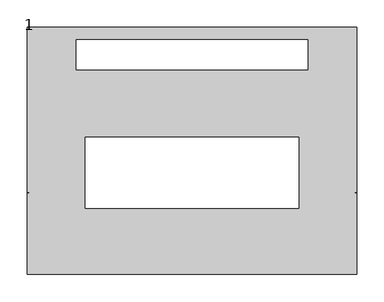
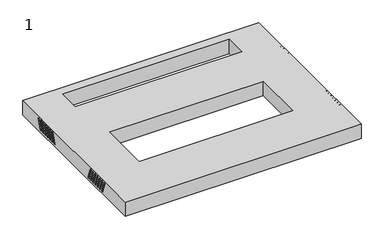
"""IFC4 building model written with IfcOpenShell, lengths in millimetres: proxy geometry, 1."""

from ifc_helpers import new_model, si_unit, frame, origin, place, context, project, spatial, polyline, circle_curve, source, transform, mapped, element, save
from ifc_brep_helpers import plane_surface, revolved_surface, advanced_brep


def proxy_1_63ddd125(model_context):
    return source(origin(), model_context, "Body", "AdvancedBrep", [
        advanced_brep(
        [(298.0, -135.8, 931.7479679), (298.0, -126.9074763, 907.3159597), (298.0, -123.1487058, 908.6840403), (298.0, -132.0412295, 933.1160484), (298.0, -125.8, 931.7479679), (298.0, -116.9074763, 907.3159597), (298.0, -113.1487058, 908.6840403), (298.0, -122.0412295, 933.1160484), (298.0, -115.8, 931.7479679), (298.0, -106.9074763, 907.3159597), (298.0, -103.1487058, 908.6840403), (298.0, -112.0412295, 933.1160484), (298.0, -105.8, 931.7479679), (298.0, -96.9074763, 907.3159597), (298.0, -93.1487058, 908.6840403), (298.0, -102.0412295, 933.1160484), (298.0, -95.8, 931.7479679), (298.0, -86.9074763, 907.3159597), (298.0, -83.1487058, 908.6840403), (298.0, -92.0412295, 933.1160484), (298.0, -85.8, 931.7479679), (298.0, -76.9074763, 907.3159597), (298.0, -73.1487058, 908.6840403), (298.0, -82.0412295, 933.1160484), (298.0, -75.8, 931.7479679), (298.0, -66.9074763, 907.3159597), (298.0, -63.1487058, 908.6840403), (298.0, -72.0412295, 933.1160484), (300.0, -132.0412295, 933.1160484), (300.0, -135.8, 931.7479679), (300.0, -123.1487058, 908.6840403), (300.0, -126.9074763, 907.3159597), (300.0, -122.0412295, 933.1160484), (300.0, -125.8, 931.7479679), (300.0, -113.1487058, 908.6840403), (300.0, -116.9074763, 907.3159597), (300.0, -112.0412295, 933.1160484), (300.0, -115.8, 931.7479679), (300.0, -103.1487058, 908.6840403), (300.0, -106.9074763, 907.3159597), (300.0, -102.0412295, 933.1160484), (300.0, -105.8, 931.7479679), (300.0, -93.1487058, 908.6840403), (300.0, -96.9074763, 907.3159597), (300.0, -92.0412295, 933.1160484), (300.0, -95.8, 931.7479679), (300.0, -83.1487058, 908.6840403), (300.0, -86.9074763, 907.3159597), (300.0, -82.0412295, 933.1160484), (300.0, -85.8, 931.7479679), (300.0, -73.1487058, 908.6840403), (300.0, -76.9074763, 907.3159597), (300.0, -72.0412295, 933.1160484), (300.0, -75.8, 931.7479679), (300.0, -63.1487058, 908.6840403), (300.0, -66.9074763, 907.3159597), (300.0, 225.0, 900.0), (300.0, -225.0, 900.0), (-300.0, -225.0, 900.0), (-300.0, 225.0, 900.0), (-211.0, 147.5, 900.0), (211.0, 147.5, 900.0), (211.0, 202.5, 900.0), (-211.0, 202.5, 900.0), (195.0, 25.0, 900.0), (-195.0, 25.0, 900.0), (-195.0, -105.0, 900.0), (195.0, -105.0, 900.0), (300.0, 225.0, 938.0), (-300.0, 225.0, 938.0), (-300.0, -225.0, 938.0), (300.0, -225.0, 938.0), (-211.0, 147.5, 938.0), (-211.0, 202.5, 938.0), (211.0, 202.5, 938.0), (211.0, 147.5, 938.0), (195.0, 25.0, 938.0), (195.0, -105.0, 938.0), (-195.0, -105.0, 938.0), (-195.0, 25.0, 938.0), (-300.0, -66.9074763, 907.3159597), (-300.0, -63.1487058, 908.6840403), (-300.0, -72.0412295, 933.1160484), (-300.0, -75.8, 931.7479679), (-300.0, -76.9074763, 907.3159597), (-300.0, -73.1487058, 908.6840403), (-300.0, -82.0412295, 933.1160484), (-300.0, -85.8, 931.7479679), (-300.0, -86.9074763, 907.3159597), (-300.0, -83.1487058, 908.6840403), (-300.0, -92.0412295, 933.1160484), (-300.0, -95.8, 931.7479679), (-300.0, -96.9074763, 907.3159597), (-300.0, -93.1487058, 908.6840403), (-300.0, -102.0412295, 933.1160484), (-300.0, -105.8, 931.7479679), (-300.0, -106.9074763, 907.3159597), (-300.0, -103.1487058, 908.6840403), (-300.0, -112.0412295, 933.1160484), (-300.0, -115.8, 931.7479679), (-300.0, -116.9074763, 907.3159597), (-300.0, -113.1487058, 908.6840403), (-300.0, -122.0412295, 933.1160484), (-300.0, -125.8, 931.7479679), (-300.0, -126.9074763, 907.3159597), (-300.0, -123.1487058, 908.6840403), (-300.0, -132.0412295, 933.1160484), (-300.0, -135.8, 931.7479679), (-300.0, 96.0, 931.7479679), (-300.0, 92.2412295, 933.1160484), (-300.0, 83.3487058, 908.6840403), (-300.0, 87.1074763, 907.3159597), (-300.0, 106.0, 931.7479679), (-300.0, 102.2412295, 933.1160484), (-300.0, 93.3487058, 908.6840403), (-300.0, 97.1074763, 907.3159597), (-300.0, 116.0, 931.7479679), (-300.0, 112.2412295, 933.1160484), (-300.0, 103.3487058, 908.6840403), (-300.0, 107.1074763, 907.3159597), (-300.0, 126.0, 931.7479679), (-300.0, 122.2412295, 933.1160484), (-300.0, 113.3487058, 908.6840403), (-300.0, 117.1074763, 907.3159597), (-300.0, 136.0, 931.7479679), (-300.0, 132.2412295, 933.1160484), (-300.0, 123.3487058, 908.6840403), (-300.0, 127.1074763, 907.3159597), (-300.0, 146.0, 931.7479679), (-300.0, 142.2412295, 933.1160484), (-300.0, 133.3487058, 908.6840403), (-300.0, 137.1074763, 907.3159597), (-300.0, 156.0, 931.7479679), (-300.0, 152.2412295, 933.1160484), (-300.0, 143.3487058, 908.6840403), (-300.0, 147.1074763, 907.3159597), (300.0, 152.2412295, 933.1160484), (300.0, 156.0, 931.7479679), (300.0, 147.1074763, 907.3159597), (300.0, 143.3487058, 908.6840403), (300.0, 142.2412295, 933.1160484), (300.0, 146.0, 931.7479679), (300.0, 137.1074763, 907.3159597), (300.0, 133.3487058, 908.6840403), (300.0, 132.2412295, 933.1160484), (300.0, 136.0, 931.7479679), (300.0, 127.1074763, 907.3159597), (300.0, 123.3487058, 908.6840403), (300.0, 122.2412295, 933.1160484), (300.0, 126.0, 931.7479679), (300.0, 117.1074763, 907.3159597), (300.0, 113.3487058, 908.6840403), (300.0, 112.2412295, 933.1160484), (300.0, 116.0, 931.7479679), (300.0, 107.1074763, 907.3159597), (300.0, 103.3487058, 908.6840403), (300.0, 102.2412295, 933.1160484), (300.0, 106.0, 931.7479679), (300.0, 97.1074763, 907.3159597), (300.0, 93.3487058, 908.6840403), (300.0, 92.2412295, 933.1160484), (300.0, 96.0, 931.7479679), (300.0, 87.1074763, 907.3159597), (300.0, 83.3487058, 908.6840403), (298.0, 156.0, 931.7479679), (298.0, 152.2412295, 933.1160484), (298.0, 143.3487058, 908.6840403), (298.0, 147.1074763, 907.3159597), (298.0, 146.0, 931.7479679), (298.0, 142.2412295, 933.1160484), (298.0, 133.3487058, 908.6840403), (298.0, 137.1074763, 907.3159597), (298.0, 136.0, 931.7479679), (298.0, 132.2412295, 933.1160484), (298.0, 123.3487058, 908.6840403), (298.0, 127.1074763, 907.3159597), (298.0, 126.0, 931.7479679), (298.0, 122.2412295, 933.1160484), (298.0, 113.3487058, 908.6840403), (298.0, 117.1074763, 907.3159597), (298.0, 116.0, 931.7479679), (298.0, 112.2412295, 933.1160484), (298.0, 103.3487058, 908.6840403), (298.0, 107.1074763, 907.3159597), (298.0, 106.0, 931.7479679), (298.0, 102.2412295, 933.1160484), (298.0, 93.3487058, 908.6840403), (298.0, 97.1074763, 907.3159597), (298.0, 96.0, 931.7479679), (298.0, 92.2412295, 933.1160484), (298.0, 83.3487058, 908.6840403), (298.0, 87.1074763, 907.3159597), (-298.0, -63.1487058, 908.6840403), (-298.0, -66.9074763, 907.3159597), (-298.0, -75.8, 931.7479679), (-298.0, -72.0412295, 933.1160484), (-298.0, -73.1487058, 908.6840403), (-298.0, -76.9074763, 907.3159597), (-298.0, -85.8, 931.7479679), (-298.0, -82.0412295, 933.1160484), (-298.0, -83.1487058, 908.6840403), (-298.0, -86.9074763, 907.3159597), (-298.0, -95.8, 931.7479679), (-298.0, -92.0412295, 933.1160484), (-298.0, -93.1487058, 908.6840403), (-298.0, -96.9074763, 907.3159597), (-298.0, -105.8, 931.7479679), (-298.0, -102.0412295, 933.1160484), (-298.0, -103.1487058, 908.6840403), (-298.0, -106.9074763, 907.3159597), (-298.0, -115.8, 931.7479679), (-298.0, -112.0412295, 933.1160484), (-298.0, -113.1487058, 908.6840403), (-298.0, -116.9074763, 907.3159597), (-298.0, -125.8, 931.7479679), (-298.0, -122.0412295, 933.1160484), (-298.0, -123.1487058, 908.6840403), (-298.0, -126.9074763, 907.3159597), (-298.0, -135.8, 931.7479679), (-298.0, -132.0412295, 933.1160484), (-298.0, 92.2412295, 933.1160484), (-298.0, 96.0, 931.7479679), (-298.0, 87.1074763, 907.3159597), (-298.0, 83.3487058, 908.6840403), (-298.0, 102.2412295, 933.1160484), (-298.0, 106.0, 931.7479679), (-298.0, 97.1074763, 907.3159597), (-298.0, 93.3487058, 908.6840403), (-298.0, 112.2412295, 933.1160484), (-298.0, 116.0, 931.7479679), (-298.0, 107.1074763, 907.3159597), (-298.0, 103.3487058, 908.6840403), (-298.0, 122.2412295, 933.1160484), (-298.0, 126.0, 931.7479679), (-298.0, 117.1074763, 907.3159597), (-298.0, 113.3487058, 908.6840403), (-298.0, 132.2412295, 933.1160484), (-298.0, 136.0, 931.7479679), (-298.0, 127.1074763, 907.3159597), (-298.0, 123.3487058, 908.6840403), (-298.0, 142.2412295, 933.1160484), (-298.0, 146.0, 931.7479679), (-298.0, 137.1074763, 907.3159597), (-298.0, 133.3487058, 908.6840403), (-298.0, 152.2412295, 933.1160484), (-298.0, 156.0, 931.7479679), (-298.0, 147.1074763, 907.3159597), (-298.0, 143.3487058, 908.6840403)],
        [
            (0, 1),
            (1, 2, circle_curve(frame((298.0, -125.028091, 908.0), z_axis=(1.0, 0.0, 0.0), x_axis=(0.0, -1.0, 0.0)), 2.0)),
            (2, 3),
            (3, 0, circle_curve(frame((298.0, -133.9206148, 932.4320081), z_axis=(1.0, 0.0, 0.0), x_axis=(0.0, -1.0, 0.0)), 2.0)),
            (4, 5),
            (5, 6, circle_curve(frame((298.0, -115.028091, 908.0), z_axis=(1.0, 0.0, 0.0), x_axis=(0.0, -1.0, 0.0)), 2.0)),
            (6, 7),
            (7, 4, circle_curve(frame((298.0, -123.9206148, 932.4320081), z_axis=(1.0, 0.0, 0.0), x_axis=(0.0, -1.0, 0.0)), 2.0)),
            (8, 9),
            (9, 10, circle_curve(frame((298.0, -105.028091, 908.0), z_axis=(1.0, 0.0, 0.0), x_axis=(0.0, -1.0, 0.0)), 2.0)),
            (10, 11),
            (11, 8, circle_curve(frame((298.0, -113.9206148, 932.4320081), z_axis=(1.0, 0.0, 0.0), x_axis=(0.0, -1.0, 0.0)), 2.0)),
            (12, 13),
            (13, 14, circle_curve(frame((298.0, -95.028091, 908.0), z_axis=(1.0, 0.0, 0.0), x_axis=(0.0, -1.0, 0.0)), 2.0)),
            (14, 15),
            (15, 12, circle_curve(frame((298.0, -103.9206148, 932.4320081), z_axis=(1.0, 0.0, 0.0), x_axis=(0.0, -1.0, 0.0)), 2.0)),
            (16, 17),
            (17, 18, circle_curve(frame((298.0, -85.028091, 908.0), z_axis=(1.0, 0.0, 0.0), x_axis=(0.0, -1.0, 0.0)), 2.0)),
            (18, 19),
            (19, 16, circle_curve(frame((298.0, -93.9206148, 932.4320081), z_axis=(1.0, 0.0, 0.0), x_axis=(0.0, -1.0, 0.0)), 2.0)),
            (20, 21),
            (21, 22, circle_curve(frame((298.0, -75.028091, 908.0), z_axis=(1.0, 0.0, 0.0), x_axis=(0.0, -1.0, 0.0)), 2.0)),
            (22, 23),
            (23, 20, circle_curve(frame((298.0, -83.9206148, 932.4320081), z_axis=(1.0, 0.0, 0.0), x_axis=(0.0, -1.0, 0.0)), 2.0)),
            (24, 25),
            (25, 26, circle_curve(frame((298.0, -65.028091, 908.0), z_axis=(1.0, 0.0, 0.0), x_axis=(0.0, -1.0, 0.0)), 2.0)),
            (26, 27),
            (27, 24, circle_curve(frame((298.0, -73.9206148, 932.4320081), z_axis=(1.0, 0.0, 0.0), x_axis=(0.0, -1.0, 0.0)), 2.0)),
            (3, 28),
            (28, 29, circle_curve(frame((300.0, -133.9206148, 932.4320081), z_axis=(1.0, 0.0, 0.0), x_axis=(0.0, -1.0, 0.0)), 2.0)),
            (29, 0),
            (2, 30),
            (30, 28),
            (1, 31),
            (31, 30, circle_curve(frame((300.0, -125.028091, 908.0), z_axis=(1.0, 0.0, 0.0), x_axis=(0.0, -1.0, 0.0)), 2.0)),
            (29, 31),
            (7, 32),
            (32, 33, circle_curve(frame((300.0, -123.9206148, 932.4320081), z_axis=(1.0, 0.0, 0.0), x_axis=(0.0, -1.0, 0.0)), 2.0)),
            (33, 4),
            (6, 34),
            (34, 32),
            (5, 35),
            (35, 34, circle_curve(frame((300.0, -115.028091, 908.0), z_axis=(1.0, 0.0, 0.0), x_axis=(0.0, -1.0, 0.0)), 2.0)),
            (33, 35),
            (11, 36),
            (36, 37, circle_curve(frame((300.0, -113.9206148, 932.4320081), z_axis=(1.0, 0.0, 0.0), x_axis=(0.0, -1.0, 0.0)), 2.0)),
            (37, 8),
            (10, 38),
            (38, 36),
            (9, 39),
            (39, 38, circle_curve(frame((300.0, -105.028091, 908.0), z_axis=(1.0, 0.0, 0.0), x_axis=(0.0, -1.0, 0.0)), 2.0)),
            (37, 39),
            (15, 40),
            (40, 41, circle_curve(frame((300.0, -103.9206148, 932.4320081), z_axis=(1.0, 0.0, 0.0), x_axis=(0.0, -1.0, 0.0)), 2.0)),
            (41, 12),
            (14, 42),
            (42, 40),
            (13, 43),
            (43, 42, circle_curve(frame((300.0, -95.028091, 908.0), z_axis=(1.0, 0.0, 0.0), x_axis=(0.0, -1.0, 0.0)), 2.0)),
            (41, 43),
            (19, 44),
            (44, 45, circle_curve(frame((300.0, -93.9206148, 932.4320081), z_axis=(1.0, 0.0, 0.0), x_axis=(0.0, -1.0, 0.0)), 2.0)),
            (45, 16),
            (18, 46),
            (46, 44),
            (17, 47),
            (47, 46, circle_curve(frame((300.0, -85.028091, 908.0), z_axis=(1.0, 0.0, 0.0), x_axis=(0.0, -1.0, 0.0)), 2.0)),
            (45, 47),
            (23, 48),
            (48, 49, circle_curve(frame((300.0, -83.9206148, 932.4320081), z_axis=(1.0, 0.0, 0.0), x_axis=(0.0, -1.0, 0.0)), 2.0)),
            (49, 20),
            (22, 50),
            (50, 48),
            (21, 51),
            (51, 50, circle_curve(frame((300.0, -75.028091, 908.0), z_axis=(1.0, 0.0, 0.0), x_axis=(0.0, -1.0, 0.0)), 2.0)),
            (49, 51),
            (27, 52),
            (52, 53, circle_curve(frame((300.0, -73.9206148, 932.4320081), z_axis=(1.0, 0.0, 0.0), x_axis=(0.0, -1.0, 0.0)), 2.0)),
            (53, 24),
            (26, 54),
            (54, 52),
            (25, 55),
            (55, 54, circle_curve(frame((300.0, -65.028091, 908.0), z_axis=(1.0, 0.0, 0.0), x_axis=(0.0, -1.0, 0.0)), 2.0)),
            (53, 55),
            (56, 57),
            (57, 58),
            (58, 59),
            (59, 56),
            (60, 61),
            (61, 62),
            (62, 63),
            (63, 60),
            (64, 65),
            (65, 66),
            (66, 67),
            (67, 64),
            (68, 69),
            (69, 70),
            (70, 71),
            (71, 68),
            (72, 73),
            (73, 74),
            (74, 75),
            (75, 72),
            (76, 77),
            (77, 78),
            (78, 79),
            (79, 76),
            (59, 69),
            (68, 56),
            (58, 70),
            (80, 81, circle_curve(frame((-300.0, -65.028091, 908.0), z_axis=(1.0, 0.0, 0.0), x_axis=(0.0, 1.0, 0.0)), 2.0)),
            (81, 82),
            (82, 83, circle_curve(frame((-300.0, -73.9206148, 932.4320081), z_axis=(1.0, 0.0, 0.0), x_axis=(0.0, 1.0, 0.0)), 2.0)),
            (83, 80),
            (84, 85, circle_curve(frame((-300.0, -75.028091, 908.0), z_axis=(1.0, 0.0, 0.0), x_axis=(0.0, 1.0, 0.0)), 2.0)),
            (85, 86),
            (86, 87, circle_curve(frame((-300.0, -83.9206148, 932.4320081), z_axis=(1.0, 0.0, 0.0), x_axis=(0.0, 1.0, 0.0)), 2.0)),
            (87, 84),
            (88, 89, circle_curve(frame((-300.0, -85.028091, 908.0), z_axis=(1.0, 0.0, 0.0), x_axis=(0.0, 1.0, 0.0)), 2.0)),
            (89, 90),
            (90, 91, circle_curve(frame((-300.0, -93.9206148, 932.4320081), z_axis=(1.0, 0.0, 0.0), x_axis=(0.0, 1.0, 0.0)), 2.0)),
            (91, 88),
            (92, 93, circle_curve(frame((-300.0, -95.028091, 908.0), z_axis=(1.0, 0.0, 0.0), x_axis=(0.0, 1.0, 0.0)), 2.0)),
            (93, 94),
            (94, 95, circle_curve(frame((-300.0, -103.9206148, 932.4320081), z_axis=(1.0, 0.0, 0.0), x_axis=(0.0, 1.0, 0.0)), 2.0)),
            (95, 92),
            (96, 97, circle_curve(frame((-300.0, -105.028091, 908.0), z_axis=(1.0, 0.0, 0.0), x_axis=(0.0, 1.0, 0.0)), 2.0)),
            (97, 98),
            (98, 99, circle_curve(frame((-300.0, -113.9206148, 932.4320081), z_axis=(1.0, 0.0, 0.0), x_axis=(0.0, 1.0, 0.0)), 2.0)),
            (99, 96),
            (100, 101, circle_curve(frame((-300.0, -115.028091, 908.0), z_axis=(1.0, 0.0, 0.0), x_axis=(0.0, 1.0, 0.0)), 2.0)),
            (101, 102),
            (102, 103, circle_curve(frame((-300.0, -123.9206148, 932.4320081), z_axis=(1.0, 0.0, 0.0), x_axis=(0.0, 1.0, 0.0)), 2.0)),
            (103, 100),
            (104, 105, circle_curve(frame((-300.0, -125.028091, 908.0), z_axis=(1.0, 0.0, 0.0), x_axis=(0.0, 1.0, 0.0)), 2.0)),
            (105, 106),
            (106, 107, circle_curve(frame((-300.0, -133.9206148, 932.4320081), z_axis=(1.0, 0.0, 0.0), x_axis=(0.0, 1.0, 0.0)), 2.0)),
            (107, 104),
            (108, 109, circle_curve(frame((-300.0, 94.1206148, 932.4320081), z_axis=(1.0, 0.0, 0.0), x_axis=(0.0, 1.0, 0.0)), 2.0)),
            (109, 110),
            (110, 111, circle_curve(frame((-300.0, 85.228091, 908.0), z_axis=(1.0, 0.0, 0.0), x_axis=(0.0, 1.0, 0.0)), 2.0)),
            (111, 108),
            (112, 113, circle_curve(frame((-300.0, 104.1206148, 932.4320081), z_axis=(1.0, 0.0, 0.0), x_axis=(0.0, 1.0, 0.0)), 2.0)),
            (113, 114),
            (114, 115, circle_curve(frame((-300.0, 95.228091, 908.0), z_axis=(1.0, 0.0, 0.0), x_axis=(0.0, 1.0, 0.0)), 2.0)),
            (115, 112),
            (116, 117, circle_curve(frame((-300.0, 114.1206148, 932.4320081), z_axis=(1.0, 0.0, 0.0), x_axis=(0.0, 1.0, 0.0)), 2.0)),
            (117, 118),
            (118, 119, circle_curve(frame((-300.0, 105.228091, 908.0), z_axis=(1.0, 0.0, 0.0), x_axis=(0.0, 1.0, 0.0)), 2.0)),
            (119, 116),
            (120, 121, circle_curve(frame((-300.0, 124.1206148, 932.4320081), z_axis=(1.0, 0.0, 0.0), x_axis=(0.0, 1.0, 0.0)), 2.0)),
            (121, 122),
            (122, 123, circle_curve(frame((-300.0, 115.228091, 908.0), z_axis=(1.0, 0.0, 0.0), x_axis=(0.0, 1.0, 0.0)), 2.0)),
            (123, 120),
            (124, 125, circle_curve(frame((-300.0, 134.1206148, 932.4320081), z_axis=(1.0, 0.0, 0.0), x_axis=(0.0, 1.0, 0.0)), 2.0)),
            (125, 126),
            (126, 127, circle_curve(frame((-300.0, 125.228091, 908.0), z_axis=(1.0, 0.0, 0.0), x_axis=(0.0, 1.0, 0.0)), 2.0)),
            (127, 124),
            (128, 129, circle_curve(frame((-300.0, 144.1206148, 932.4320081), z_axis=(1.0, 0.0, 0.0), x_axis=(0.0, 1.0, 0.0)), 2.0)),
            (129, 130),
            (130, 131, circle_curve(frame((-300.0, 135.228091, 908.0), z_axis=(1.0, 0.0, 0.0), x_axis=(0.0, 1.0, 0.0)), 2.0)),
            (131, 128),
            (132, 133, circle_curve(frame((-300.0, 154.1206148, 932.4320081), z_axis=(1.0, 0.0, 0.0), x_axis=(0.0, 1.0, 0.0)), 2.0)),
            (133, 134),
            (134, 135, circle_curve(frame((-300.0, 145.228091, 908.0), z_axis=(1.0, 0.0, 0.0), x_axis=(0.0, 1.0, 0.0)), 2.0)),
            (135, 132),
            (57, 71),
            (136, 137, circle_curve(frame((300.0, 154.1206148, 932.4320081), z_axis=(-1.0, 0.0, 0.0), x_axis=(0.0, 1.0, 0.0)), 2.0)),
            (137, 138),
            (138, 139, circle_curve(frame((300.0, 145.228091, 908.0), z_axis=(-1.0, 0.0, 0.0), x_axis=(0.0, 1.0, 0.0)), 2.0)),
            (139, 136),
            (140, 141, circle_curve(frame((300.0, 144.1206148, 932.4320081), z_axis=(-1.0, 0.0, 0.0), x_axis=(0.0, 1.0, 0.0)), 2.0)),
            (141, 142),
            (142, 143, circle_curve(frame((300.0, 135.228091, 908.0), z_axis=(-1.0, 0.0, 0.0), x_axis=(0.0, 1.0, 0.0)), 2.0)),
            (143, 140),
            (144, 145, circle_curve(frame((300.0, 134.1206148, 932.4320081), z_axis=(-1.0, 0.0, 0.0), x_axis=(0.0, 1.0, 0.0)), 2.0)),
            (145, 146),
            (146, 147, circle_curve(frame((300.0, 125.228091, 908.0), z_axis=(-1.0, 0.0, 0.0), x_axis=(0.0, 1.0, 0.0)), 2.0)),
            (147, 144),
            (148, 149, circle_curve(frame((300.0, 124.1206148, 932.4320081), z_axis=(-1.0, 0.0, 0.0), x_axis=(0.0, 1.0, 0.0)), 2.0)),
            (149, 150),
            (150, 151, circle_curve(frame((300.0, 115.228091, 908.0), z_axis=(-1.0, 0.0, 0.0), x_axis=(0.0, 1.0, 0.0)), 2.0)),
            (151, 148),
            (152, 153, circle_curve(frame((300.0, 114.1206148, 932.4320081), z_axis=(-1.0, 0.0, 0.0), x_axis=(0.0, 1.0, 0.0)), 2.0)),
            (153, 154),
            (154, 155, circle_curve(frame((300.0, 105.228091, 908.0), z_axis=(-1.0, 0.0, 0.0), x_axis=(0.0, 1.0, 0.0)), 2.0)),
            (155, 152),
            (156, 157, circle_curve(frame((300.0, 104.1206148, 932.4320081), z_axis=(-1.0, 0.0, 0.0), x_axis=(0.0, 1.0, 0.0)), 2.0)),
            (157, 158),
            (158, 159, circle_curve(frame((300.0, 95.228091, 908.0), z_axis=(-1.0, 0.0, 0.0), x_axis=(0.0, 1.0, 0.0)), 2.0)),
            (159, 156),
            (160, 161, circle_curve(frame((300.0, 94.1206148, 932.4320081), z_axis=(-1.0, 0.0, 0.0), x_axis=(0.0, 1.0, 0.0)), 2.0)),
            (161, 162),
            (162, 163, circle_curve(frame((300.0, 85.228091, 908.0), z_axis=(-1.0, 0.0, 0.0), x_axis=(0.0, 1.0, 0.0)), 2.0)),
            (163, 160),
            (63, 73),
            (72, 60),
            (62, 74),
            (61, 75),
            (67, 77),
            (76, 64),
            (66, 78),
            (65, 79),
            (164, 165, circle_curve(frame((298.0, 154.1206148, 932.4320081), z_axis=(1.0, 0.0, 0.0), x_axis=(0.0, 1.0, 0.0)), 2.0)),
            (165, 166),
            (166, 167, circle_curve(frame((298.0, 145.228091, 908.0), z_axis=(1.0, 0.0, 0.0), x_axis=(0.0, 1.0, 0.0)), 2.0)),
            (167, 164),
            (168, 169, circle_curve(frame((298.0, 144.1206148, 932.4320081), z_axis=(1.0, 0.0, 0.0), x_axis=(0.0, 1.0, 0.0)), 2.0)),
            (169, 170),
            (170, 171, circle_curve(frame((298.0, 135.228091, 908.0), z_axis=(1.0, 0.0, 0.0), x_axis=(0.0, 1.0, 0.0)), 2.0)),
            (171, 168),
            (172, 173, circle_curve(frame((298.0, 134.1206148, 932.4320081), z_axis=(1.0, 0.0, 0.0), x_axis=(0.0, 1.0, 0.0)), 2.0)),
            (173, 174),
            (174, 175, circle_curve(frame((298.0, 125.228091, 908.0), z_axis=(1.0, 0.0, 0.0), x_axis=(0.0, 1.0, 0.0)), 2.0)),
            (175, 172),
            (176, 177, circle_curve(frame((298.0, 124.1206148, 932.4320081), z_axis=(1.0, 0.0, 0.0), x_axis=(0.0, 1.0, 0.0)), 2.0)),
            (177, 178),
            (178, 179, circle_curve(frame((298.0, 115.228091, 908.0), z_axis=(1.0, 0.0, 0.0), x_axis=(0.0, 1.0, 0.0)), 2.0)),
            (179, 176),
            (180, 181, circle_curve(frame((298.0, 114.1206148, 932.4320081), z_axis=(1.0, 0.0, 0.0), x_axis=(0.0, 1.0, 0.0)), 2.0)),
            (181, 182),
            (182, 183, circle_curve(frame((298.0, 105.228091, 908.0), z_axis=(1.0, 0.0, 0.0), x_axis=(0.0, 1.0, 0.0)), 2.0)),
            (183, 180),
            (184, 185, circle_curve(frame((298.0, 104.1206148, 932.4320081), z_axis=(1.0, 0.0, 0.0), x_axis=(0.0, 1.0, 0.0)), 2.0)),
            (185, 186),
            (186, 187, circle_curve(frame((298.0, 95.228091, 908.0), z_axis=(1.0, 0.0, 0.0), x_axis=(0.0, 1.0, 0.0)), 2.0)),
            (187, 184),
            (188, 189, circle_curve(frame((298.0, 94.1206148, 932.4320081), z_axis=(1.0, 0.0, 0.0), x_axis=(0.0, 1.0, 0.0)), 2.0)),
            (189, 190),
            (190, 191, circle_curve(frame((298.0, 85.228091, 908.0), z_axis=(1.0, 0.0, 0.0), x_axis=(0.0, 1.0, 0.0)), 2.0)),
            (191, 188),
            (164, 137),
            (136, 165),
            (139, 166),
            (138, 167),
            (168, 141),
            (140, 169),
            (143, 170),
            (142, 171),
            (172, 145),
            (144, 173),
            (147, 174),
            (146, 175),
            (176, 149),
            (148, 177),
            (151, 178),
            (150, 179),
            (180, 153),
            (152, 181),
            (155, 182),
            (154, 183),
            (184, 157),
            (156, 185),
            (159, 186),
            (158, 187),
            (188, 161),
            (160, 189),
            (163, 190),
            (162, 191),
            (192, 193, circle_curve(frame((-298.0, -65.028091, 908.0), z_axis=(-1.0, 0.0, 0.0), x_axis=(0.0, 1.0, 0.0)), 2.0)),
            (193, 194),
            (194, 195, circle_curve(frame((-298.0, -73.9206148, 932.4320081), z_axis=(-1.0, 0.0, 0.0), x_axis=(0.0, 1.0, 0.0)), 2.0)),
            (195, 192),
            (196, 197, circle_curve(frame((-298.0, -75.028091, 908.0), z_axis=(-1.0, 0.0, 0.0), x_axis=(0.0, 1.0, 0.0)), 2.0)),
            (197, 198),
            (198, 199, circle_curve(frame((-298.0, -83.9206148, 932.4320081), z_axis=(-1.0, 0.0, 0.0), x_axis=(0.0, 1.0, 0.0)), 2.0)),
            (199, 196),
            (200, 201, circle_curve(frame((-298.0, -85.028091, 908.0), z_axis=(-1.0, 0.0, 0.0), x_axis=(0.0, 1.0, 0.0)), 2.0)),
            (201, 202),
            (202, 203, circle_curve(frame((-298.0, -93.9206148, 932.4320081), z_axis=(-1.0, 0.0, 0.0), x_axis=(0.0, 1.0, 0.0)), 2.0)),
            (203, 200),
            (204, 205, circle_curve(frame((-298.0, -95.028091, 908.0), z_axis=(-1.0, 0.0, 0.0), x_axis=(0.0, 1.0, 0.0)), 2.0)),
            (205, 206),
            (206, 207, circle_curve(frame((-298.0, -103.9206148, 932.4320081), z_axis=(-1.0, 0.0, 0.0), x_axis=(0.0, 1.0, 0.0)), 2.0)),
            (207, 204),
            (208, 209, circle_curve(frame((-298.0, -105.028091, 908.0), z_axis=(-1.0, 0.0, 0.0), x_axis=(0.0, 1.0, 0.0)), 2.0)),
            (209, 210),
            (210, 211, circle_curve(frame((-298.0, -113.9206148, 932.4320081), z_axis=(-1.0, 0.0, 0.0), x_axis=(0.0, 1.0, 0.0)), 2.0)),
            (211, 208),
            (212, 213, circle_curve(frame((-298.0, -115.028091, 908.0), z_axis=(-1.0, 0.0, 0.0), x_axis=(0.0, 1.0, 0.0)), 2.0)),
            (213, 214),
            (214, 215, circle_curve(frame((-298.0, -123.9206148, 932.4320081), z_axis=(-1.0, 0.0, 0.0), x_axis=(0.0, 1.0, 0.0)), 2.0)),
            (215, 212),
            (216, 217, circle_curve(frame((-298.0, -125.028091, 908.0), z_axis=(-1.0, 0.0, 0.0), x_axis=(0.0, 1.0, 0.0)), 2.0)),
            (217, 218),
            (218, 219, circle_curve(frame((-298.0, -133.9206148, 932.4320081), z_axis=(-1.0, 0.0, 0.0), x_axis=(0.0, 1.0, 0.0)), 2.0)),
            (219, 216),
            (192, 81),
            (80, 193),
            (83, 194),
            (82, 195),
            (196, 85),
            (84, 197),
            (87, 198),
            (86, 199),
            (200, 89),
            (88, 201),
            (91, 202),
            (90, 203),
            (204, 93),
            (92, 205),
            (95, 206),
            (94, 207),
            (208, 97),
            (96, 209),
            (99, 210),
            (98, 211),
            (212, 101),
            (100, 213),
            (103, 214),
            (102, 215),
            (216, 105),
            (104, 217),
            (107, 218),
            (106, 219),
            (220, 221, circle_curve(frame((-298.0, 94.1206148, 932.4320081), z_axis=(-1.0, 0.0, 0.0), x_axis=(0.0, 1.0, 0.0)), 2.0)),
            (221, 222),
            (222, 223, circle_curve(frame((-298.0, 85.228091, 908.0), z_axis=(-1.0, 0.0, 0.0), x_axis=(0.0, 1.0, 0.0)), 2.0)),
            (223, 220),
            (224, 225, circle_curve(frame((-298.0, 104.1206148, 932.4320081), z_axis=(-1.0, 0.0, 0.0), x_axis=(0.0, 1.0, 0.0)), 2.0)),
            (225, 226),
            (226, 227, circle_curve(frame((-298.0, 95.228091, 908.0), z_axis=(-1.0, 0.0, 0.0), x_axis=(0.0, 1.0, 0.0)), 2.0)),
            (227, 224),
            (228, 229, circle_curve(frame((-298.0, 114.1206148, 932.4320081), z_axis=(-1.0, 0.0, 0.0), x_axis=(0.0, 1.0, 0.0)), 2.0)),
            (229, 230),
            (230, 231, circle_curve(frame((-298.0, 105.228091, 908.0), z_axis=(-1.0, 0.0, 0.0), x_axis=(0.0, 1.0, 0.0)), 2.0)),
            (231, 228),
            (232, 233, circle_curve(frame((-298.0, 124.1206148, 932.4320081), z_axis=(-1.0, 0.0, 0.0), x_axis=(0.0, 1.0, 0.0)), 2.0)),
            (233, 234),
            (234, 235, circle_curve(frame((-298.0, 115.228091, 908.0), z_axis=(-1.0, 0.0, 0.0), x_axis=(0.0, 1.0, 0.0)), 2.0)),
            (235, 232),
            (236, 237, circle_curve(frame((-298.0, 134.1206148, 932.4320081), z_axis=(-1.0, 0.0, 0.0), x_axis=(0.0, 1.0, 0.0)), 2.0)),
            (237, 238),
            (238, 239, circle_curve(frame((-298.0, 125.228091, 908.0), z_axis=(-1.0, 0.0, 0.0), x_axis=(0.0, 1.0, 0.0)), 2.0)),
            (239, 236),
            (240, 241, circle_curve(frame((-298.0, 144.1206148, 932.4320081), z_axis=(-1.0, 0.0, 0.0), x_axis=(0.0, 1.0, 0.0)), 2.0)),
            (241, 242),
            (242, 243, circle_curve(frame((-298.0, 135.228091, 908.0), z_axis=(-1.0, 0.0, 0.0), x_axis=(0.0, 1.0, 0.0)), 2.0)),
            (243, 240),
            (244, 245, circle_curve(frame((-298.0, 154.1206148, 932.4320081), z_axis=(-1.0, 0.0, 0.0), x_axis=(0.0, 1.0, 0.0)), 2.0)),
            (245, 246),
            (246, 247, circle_curve(frame((-298.0, 145.228091, 908.0), z_axis=(-1.0, 0.0, 0.0), x_axis=(0.0, 1.0, 0.0)), 2.0)),
            (247, 244),
            (220, 109),
            (108, 221),
            (111, 222),
            (110, 223),
            (224, 113),
            (112, 225),
            (115, 226),
            (114, 227),
            (228, 117),
            (116, 229),
            (119, 230),
            (118, 231),
            (232, 121),
            (120, 233),
            (123, 234),
            (122, 235),
            (236, 125),
            (124, 237),
            (127, 238),
            (126, 239),
            (240, 129),
            (128, 241),
            (131, 242),
            (130, 243),
            (244, 133),
            (132, 245),
            (135, 246),
            (134, 247),
        ],
        [
            plane_surface(frame((298.0, -126.9074763, 907.3159597), z_axis=(1.0, 0.0, 0.0), x_axis=(0.0, -0.3420201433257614, 0.9396926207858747))),
            revolved_surface(polyline([(300.0, -135.9206148, 932.4320081), (298.0, -135.9206148, 932.4320081)]), (298.0, -133.9206148, 932.4320081), (1.0, 0.0, 0.0)),
            plane_surface(frame((300.0, -123.1487058, 908.6840403), z_axis=(0.0, -0.9396926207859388, -0.342020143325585), x_axis=(-1.0, 0.0, 0.0))),
            revolved_surface(polyline([(300.0, -127.028091, 908.0), (298.0, -127.028091, 908.0)]), (298.0, -125.028091, 908.0), (1.0, 0.0, 0.0)),
            plane_surface(frame((300.0, -135.8, 931.7479679), z_axis=(0.0, 0.9396926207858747, 0.3420201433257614), x_axis=(-1.0, 0.0, 0.0))),
            revolved_surface(polyline([(300.0, -125.9206148, 932.4320081), (298.0, -125.9206148, 932.4320081)]), (300.0, -123.9206148, 932.4320081), (1.0, 0.0, 0.0)),
            plane_surface(frame((300.0, -113.1487058, 908.6840403), z_axis=(0.0, -0.9396926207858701, -0.3420201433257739), x_axis=(-1.0, 0.0, 0.0))),
            revolved_surface(polyline([(300.0, -117.028091, 908.0), (298.0, -117.028091, 908.0)]), (300.0, -115.028091, 908.0), (1.0, 0.0, 0.0)),
            plane_surface(frame((300.0, -125.8, 931.7479679), z_axis=(0.0, 0.9396926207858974, 0.34202014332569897), x_axis=(-1.0, 0.0, 0.0))),
            revolved_surface(polyline([(300.0, -115.9206148, 932.4320081), (298.0, -115.9206148, 932.4320081)]), (300.0, -113.9206148, 932.4320081), (1.0, 0.0, 0.0)),
            plane_surface(frame((300.0, -103.1487058, 908.6840403), z_axis=(0.0, -0.9396926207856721, -0.3420201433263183), x_axis=(-1.0, 0.0, 0.0))),
            revolved_surface(polyline([(300.0, -107.028091, 908.0), (298.0, -107.028091, 908.0)]), (300.0, -105.028091, 908.0), (1.0, 0.0, 0.0)),
            plane_surface(frame((300.0, -115.8, 931.7479679), z_axis=(0.0, 0.9396926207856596, 0.3420201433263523), x_axis=(-1.0, 0.0, 0.0))),
            revolved_surface(polyline([(300.0, -105.9206148, 932.4320081), (298.0, -105.9206148, 932.4320081)]), (300.0, -103.9206148, 932.4320081), (1.0, 0.0, 0.0)),
            plane_surface(frame((300.0, -93.1487058, 908.6840403), z_axis=(0.0, -0.9396926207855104, -0.3420201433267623), x_axis=(-1.0, 0.0, 0.0))),
            revolved_surface(polyline([(300.0, -97.028091, 908.0), (298.0, -97.028091, 908.0)]), (300.0, -95.028091, 908.0), (1.0, 0.0, 0.0)),
            plane_surface(frame((300.0, -105.8, 931.7479679), z_axis=(0.0, 0.9396926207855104, 0.3420201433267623), x_axis=(-1.0, 0.0, 0.0))),
            revolved_surface(polyline([(300.0, -95.9206148, 932.4320081), (298.0, -95.9206148, 932.4320081)]), (300.0, -93.9206148, 932.4320081), (1.0, 0.0, 0.0)),
            plane_surface(frame((300.0, -83.1487058, 908.6840403), z_axis=(0.0, -0.9396926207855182, -0.34202014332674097), x_axis=(-1.0, 0.0, 0.0))),
            revolved_surface(polyline([(300.0, -87.028091, 908.0), (298.0, -87.028091, 908.0)]), (300.0, -85.028091, 908.0), (1.0, 0.0, 0.0)),
            plane_surface(frame((300.0, -95.8, 931.7479679), z_axis=(0.0, 0.9396926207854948, 0.34202014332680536), x_axis=(-1.0, 0.0, 0.0))),
            revolved_surface(polyline([(300.0, -85.9206148, 932.4320081), (298.0, -85.9206148, 932.4320081)]), (300.0, -83.9206148, 932.4320081), (1.0, 0.0, 0.0)),
            plane_surface(frame((300.0, -73.1487058, 908.6840403), z_axis=(0.0, -0.9396926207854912, -0.3420201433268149), x_axis=(-1.0, 0.0, 0.0))),
            revolved_surface(polyline([(300.0, -77.028091, 908.0), (298.0, -77.028091, 908.0)]), (300.0, -75.028091, 908.0), (1.0, 0.0, 0.0)),
            plane_surface(frame((300.0, -85.8, 931.7479679), z_axis=(0.0, 0.939692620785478, 0.34202014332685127), x_axis=(-1.0, 0.0, 0.0))),
            revolved_surface(polyline([(300.0, -75.9206148, 932.4320081), (298.0, -75.9206148, 932.4320081)]), (300.0, -73.9206148, 932.4320081), (1.0, 0.0, 0.0)),
            plane_surface(frame((300.0, -63.1487058, 908.6840403), z_axis=(0.0, -0.939692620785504, -0.34202014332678), x_axis=(-1.0, 0.0, 0.0))),
            revolved_surface(polyline([(300.0, -67.028091, 908.0), (298.0, -67.028091, 908.0)]), (300.0, -65.028091, 908.0), (1.0, 0.0, 0.0)),
            plane_surface(frame((300.0, -75.8, 931.7479679), z_axis=(0.0, 0.9396926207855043, 0.34202014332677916), x_axis=(-1.0, 0.0, 0.0))),
            plane_surface(frame((-300.0, 225.0, 900.0), z_axis=(0.0, 0.0, -1.0), x_axis=(1.0, 0.0, 0.0))),
            plane_surface(frame((-300.0, 225.0, 938.0), z_axis=(0.0, 0.0, 1.0), x_axis=(-1.0, 0.0, 0.0))),
            plane_surface(frame((300.0, 225.0, 938.0), z_axis=(0.0, 1.0, 0.0), x_axis=(0.0, 0.0, -1.0))),
            plane_surface(frame((-300.0, 225.0, 938.0), z_axis=(-1.0, 0.0, 0.0), x_axis=(0.0, 0.0, -1.0))),
            plane_surface(frame((-300.0, -225.0, 938.0), z_axis=(0.0, -1.0, 0.0), x_axis=(0.0, 0.0, -1.0))),
            plane_surface(frame((300.0, -225.0, 938.0), z_axis=(1.0, 0.0, 0.0), x_axis=(0.0, 0.0, -1.0))),
            plane_surface(frame((-211.0, 147.5, 938.0), z_axis=(1.0, 0.0, 0.0), x_axis=(0.0, 0.0, -1.0))),
            plane_surface(frame((-211.0, 202.5, 938.0), z_axis=(0.0, -1.0, 0.0), x_axis=(0.0, 0.0, -1.0))),
            plane_surface(frame((211.0, 202.5, 938.0), z_axis=(-1.0, 0.0, 0.0), x_axis=(0.0, 0.0, -1.0))),
            plane_surface(frame((211.0, 147.5, 938.0), z_axis=(0.0, 1.0, 0.0), x_axis=(0.0, 0.0, -1.0))),
            plane_surface(frame((195.0, 25.0, 938.0), z_axis=(-1.0, 0.0, 0.0), x_axis=(0.0, 0.0, -1.0))),
            plane_surface(frame((195.0, -105.0, 938.0), z_axis=(0.0, 1.0, 0.0), x_axis=(0.0, 0.0, -1.0))),
            plane_surface(frame((-195.0, -105.0, 938.0), z_axis=(1.0, 0.0, 0.0), x_axis=(0.0, 0.0, -1.0))),
            plane_surface(frame((-195.0, 25.0, 938.0), z_axis=(0.0, -1.0, 0.0), x_axis=(0.0, 0.0, -1.0))),
            plane_surface(frame((298.0, 156.1206148, 932.4320081), z_axis=(1.0, 0.0, 0.0), x_axis=(0.0, 0.0, -1.0))),
            revolved_surface(polyline([(300.0, 156.1206148, 932.4320081), (298.0, 156.1206148, 932.4320081)]), (298.0, 154.1206148, 932.4320081), (1.0, 0.0, 0.0)),
            plane_surface(frame((300.0, 152.2412295, 933.1160484), z_axis=(0.0, 0.9396926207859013, -0.3420201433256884), x_axis=(-1.0, 0.0, 0.0))),
            revolved_surface(polyline([(300.0, 147.228091, 908.0), (298.0, 147.228091, 908.0)]), (298.0, 145.228091, 908.0), (1.0, 0.0, 0.0)),
            plane_surface(frame((300.0, 147.1074763, 907.3159597), z_axis=(0.0, -0.9396926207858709, 0.34202014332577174), x_axis=(-1.0, 0.0, 0.0))),
            revolved_surface(polyline([(300.0, 146.1206148, 932.4320081), (298.0, 146.1206148, 932.4320081)]), (300.0, 144.1206148, 932.4320081), (1.0, 0.0, 0.0)),
            plane_surface(frame((300.0, 142.2412295, 933.1160484), z_axis=(0.0, 0.9396926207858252, -0.3420201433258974), x_axis=(-1.0, 0.0, 0.0))),
            revolved_surface(polyline([(300.0, 137.228091, 908.0), (298.0, 137.228091, 908.0)]), (300.0, 135.228091, 908.0), (1.0, 0.0, 0.0)),
            plane_surface(frame((300.0, 137.1074763, 907.3159597), z_axis=(0.0, -0.9396926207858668, 0.34202014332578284), x_axis=(-1.0, 0.0, 0.0))),
            revolved_surface(polyline([(300.0, 136.1206148, 932.4320081), (298.0, 136.1206148, 932.4320081)]), (300.0, 134.1206148, 932.4320081), (1.0, 0.0, 0.0)),
            plane_surface(frame((300.0, 132.2412295, 933.1160484), z_axis=(0.0, 0.9396926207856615, -0.3420201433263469), x_axis=(-1.0, 0.0, 0.0))),
            revolved_surface(polyline([(300.0, 127.228091, 908.0), (298.0, 127.228091, 908.0)]), (300.0, 125.228091, 908.0), (1.0, 0.0, 0.0)),
            plane_surface(frame((300.0, 127.1074763, 907.3159597), z_axis=(0.0, -0.9396926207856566, 0.3420201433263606), x_axis=(-1.0, 0.0, 0.0))),
            revolved_surface(polyline([(300.0, 126.1206148, 932.4320081), (298.0, 126.1206148, 932.4320081)]), (300.0, 124.1206148, 932.4320081), (1.0, 0.0, 0.0)),
            plane_surface(frame((300.0, 122.2412295, 933.1160484), z_axis=(0.0, 0.9396926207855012, -0.3420201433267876), x_axis=(-1.0, 0.0, 0.0))),
            revolved_surface(polyline([(300.0, 117.228091, 908.0), (298.0, 117.228091, 908.0)]), (300.0, 115.228091, 908.0), (1.0, 0.0, 0.0)),
            plane_surface(frame((300.0, 117.1074763, 907.3159597), z_axis=(0.0, -0.939692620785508, 0.34202014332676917), x_axis=(-1.0, 0.0, 0.0))),
            revolved_surface(polyline([(300.0, 116.1206148, 932.4320081), (298.0, 116.1206148, 932.4320081)]), (300.0, 114.1206148, 932.4320081), (1.0, 0.0, 0.0)),
            plane_surface(frame((300.0, 112.2412295, 933.1160484), z_axis=(0.0, 0.9396926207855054, -0.342020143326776), x_axis=(-1.0, 0.0, 0.0))),
            revolved_surface(polyline([(300.0, 107.228091, 908.0), (298.0, 107.228091, 908.0)]), (300.0, 105.228091, 908.0), (1.0, 0.0, 0.0)),
            plane_surface(frame((300.0, 107.1074763, 907.3159597), z_axis=(0.0, -0.9396926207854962, 0.3420201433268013), x_axis=(-1.0, 0.0, 0.0))),
            revolved_surface(polyline([(300.0, 106.1206148, 932.4320081), (298.0, 106.1206148, 932.4320081)]), (300.0, 104.1206148, 932.4320081), (1.0, 0.0, 0.0)),
            plane_surface(frame((300.0, 102.2412295, 933.1160484), z_axis=(0.0, 0.9396926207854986, -0.3420201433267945), x_axis=(-1.0, 0.0, 0.0))),
            revolved_surface(polyline([(300.0, 97.228091, 908.0), (298.0, 97.228091, 908.0)]), (300.0, 95.228091, 908.0), (1.0, 0.0, 0.0)),
            plane_surface(frame((300.0, 97.1074763, 907.3159597), z_axis=(0.0, -0.9396926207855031, 0.34202014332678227), x_axis=(-1.0, 0.0, 0.0))),
            revolved_surface(polyline([(300.0, 96.1206148, 932.4320081), (298.0, 96.1206148, 932.4320081)]), (300.0, 94.1206148, 932.4320081), (1.0, 0.0, 0.0)),
            plane_surface(frame((300.0, 92.2412295, 933.1160484), z_axis=(0.0, 0.9396926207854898, -0.34202014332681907), x_axis=(-1.0, 0.0, 0.0))),
            revolved_surface(polyline([(300.0, 87.228091, 908.0), (298.0, 87.228091, 908.0)]), (300.0, 85.228091, 908.0), (1.0, 0.0, 0.0)),
            plane_surface(frame((300.0, 87.1074763, 907.3159597), z_axis=(0.0, -0.9396926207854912, 0.342020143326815), x_axis=(-1.0, 0.0, 0.0))),
            plane_surface(frame((-298.0, -72.0412295, 933.1160484), z_axis=(-1.0000000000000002, 0.0, 0.0), x_axis=(0.0, -0.3420201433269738, 0.9396926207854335))),
            revolved_surface(polyline([(-298.0, -63.028091, 908.0), (-300.0, -63.028091, 908.0)]), (-300.0, -65.028091, 908.0), (1.0, 0.0, 0.0)),
            plane_surface(frame((-298.0, -75.8, 931.7479679), z_axis=(0.0, 0.939692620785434, 0.3420201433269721), x_axis=(-1.0, 0.0, 0.0))),
            revolved_surface(polyline([(-298.0, -71.9206148, 932.4320081), (-300.0, -71.9206148, 932.4320081)]), (-300.0, -73.9206148, 932.4320081), (1.0, 0.0, 0.0)),
            plane_surface(frame((-298.0, -63.1487058, 908.6840403), z_axis=(0.0, -0.9396926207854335, -0.3420201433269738), x_axis=(-1.0, 0.0, 0.0))),
            revolved_surface(polyline([(-298.0, -73.028091, 908.0), (-300.0, -73.028091, 908.0)]), (-300.0, -75.028091, 908.0), (1.0, 0.0, 0.0)),
            plane_surface(frame((-298.0, -85.8, 931.7479679), z_axis=(0.0, 0.9396926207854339, 0.3420201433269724), x_axis=(-1.0, 0.0, 0.0))),
            revolved_surface(polyline([(-298.0, -81.9206148, 932.4320081), (-300.0, -81.9206148, 932.4320081)]), (-300.0, -83.9206148, 932.4320081), (1.0, 0.0, 0.0)),
            plane_surface(frame((-298.0, -73.1487058, 908.6840403), z_axis=(0.0, -0.9396926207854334, -0.3420201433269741), x_axis=(-1.0, 0.0, 0.0))),
            revolved_surface(polyline([(-298.0, -83.028091, 908.0), (-300.0, -83.028091, 908.0)]), (-300.0, -85.028091, 908.0), (1.0, 0.0, 0.0)),
            plane_surface(frame((-298.0, -95.8, 931.7479679), z_axis=(0.0, 0.9396926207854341, 0.34202014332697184), x_axis=(-1.0, 0.0, 0.0))),
            revolved_surface(polyline([(-298.0, -91.9206148, 932.4320081), (-300.0, -91.9206148, 932.4320081)]), (-300.0, -93.9206148, 932.4320081), (1.0, 0.0, 0.0)),
            plane_surface(frame((-298.0, -83.1487058, 908.6840403), z_axis=(0.0, -0.9396926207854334, -0.34202014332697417), x_axis=(-1.0, 0.0, 0.0))),
            revolved_surface(polyline([(-298.0, -93.028091, 908.0), (-300.0, -93.028091, 908.0)]), (-300.0, -95.028091, 908.0), (1.0, 0.0, 0.0)),
            plane_surface(frame((-298.0, -105.8, 931.7479679), z_axis=(0.0, 0.9396926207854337, 0.34202014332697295), x_axis=(-1.0, 0.0, 0.0))),
            revolved_surface(polyline([(-298.0, -101.9206148, 932.4320081), (-300.0, -101.9206148, 932.4320081)]), (-300.0, -103.9206148, 932.4320081), (1.0, 0.0, 0.0)),
            plane_surface(frame((-298.0, -93.1487058, 908.6840403), z_axis=(0.0, -0.9396926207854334, -0.3420201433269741), x_axis=(-1.0, 0.0, 0.0))),
            revolved_surface(polyline([(-298.0, -103.028091, 908.0), (-300.0, -103.028091, 908.0)]), (-300.0, -105.028091, 908.0), (1.0, 0.0, 0.0)),
            plane_surface(frame((-298.0, -115.8, 931.7479679), z_axis=(0.0, 0.9396926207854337, 0.34202014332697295), x_axis=(-1.0, 0.0, 0.0))),
            revolved_surface(polyline([(-298.0, -111.9206148, 932.4320081), (-300.0, -111.9206148, 932.4320081)]), (-300.0, -113.9206148, 932.4320081), (1.0, 0.0, 0.0)),
            plane_surface(frame((-298.0, -103.1487058, 908.6840403), z_axis=(0.0, -0.9396926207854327, -0.34202014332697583), x_axis=(-1.0, 0.0, 0.0))),
            revolved_surface(polyline([(-298.0, -113.028091, 908.0), (-300.0, -113.028091, 908.0)]), (-300.0, -115.028091, 908.0), (1.0, 0.0, 0.0)),
            plane_surface(frame((-298.0, -125.8, 931.7479679), z_axis=(0.0, 0.9396926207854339, 0.3420201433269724), x_axis=(-1.0, 0.0, 0.0))),
            revolved_surface(polyline([(-298.0, -121.9206148, 932.4320081), (-300.0, -121.9206148, 932.4320081)]), (-300.0, -123.9206148, 932.4320081), (1.0, 0.0, 0.0)),
            plane_surface(frame((-298.0, -113.1487058, 908.6840403), z_axis=(0.0, -0.9396926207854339, -0.34202014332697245), x_axis=(-1.0, 0.0, 0.0))),
            revolved_surface(polyline([(-298.0, -123.028091, 908.0), (-300.0, -123.028091, 908.0)]), (-300.0, -125.028091, 908.0), (1.0, 0.0, 0.0)),
            plane_surface(frame((-298.0, -135.8, 931.7479679), z_axis=(0.0, 0.9396926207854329, 0.3420201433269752), x_axis=(-1.0, 0.0, 0.0))),
            revolved_surface(polyline([(-298.0, -131.9206148, 932.4320081), (-300.0, -131.9206148, 932.4320081)]), (-300.0, -133.9206148, 932.4320081), (1.0, 0.0, 0.0)),
            plane_surface(frame((-298.0, -123.1487058, 908.6840403), z_axis=(0.0, -0.9396926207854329, -0.3420201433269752), x_axis=(-1.0, 0.0, 0.0))),
            plane_surface(frame((-298.0, 83.3487058, 908.6840403), z_axis=(-1.0, 0.0, 0.0), x_axis=(0.0, -0.34202014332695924, -0.9396926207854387))),
            revolved_surface(polyline([(-298.0, 96.1206148, 932.4320081), (-300.0, 96.1206148, 932.4320081)]), (-300.0, 94.1206148, 932.4320081), (1.0, 0.0, 0.0)),
            plane_surface(frame((-298.0, 87.1074763, 907.3159597), z_axis=(0.0, -0.9396926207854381, 0.34202014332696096), x_axis=(-1.0, 0.0, 0.0))),
            revolved_surface(polyline([(-298.0, 87.228091, 908.0), (-300.0, 87.228091, 908.0)]), (-300.0, 85.228091, 908.0), (1.0, 0.0, 0.0)),
            plane_surface(frame((-298.0, 92.2412295, 933.1160484), z_axis=(0.0, 0.9396926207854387, -0.34202014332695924), x_axis=(-1.0, 0.0, 0.0))),
            revolved_surface(polyline([(-298.0, 106.1206148, 932.4320081), (-300.0, 106.1206148, 932.4320081)]), (-300.0, 104.1206148, 932.4320081), (1.0, 0.0, 0.0)),
            plane_surface(frame((-298.0, 97.1074763, 907.3159597), z_axis=(0.0, -0.9396926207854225, 0.3420201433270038), x_axis=(-1.0, 0.0, 0.0))),
            revolved_surface(polyline([(-298.0, 97.228091, 908.0), (-300.0, 97.228091, 908.0)]), (-300.0, 95.228091, 908.0), (1.0, 0.0, 0.0)),
            plane_surface(frame((-298.0, 102.2412295, 933.1160484), z_axis=(0.0, 0.939692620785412, -0.3420201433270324), x_axis=(-1.0, 0.0, 0.0))),
            revolved_surface(polyline([(-298.0, 116.1206148, 932.4320081), (-300.0, 116.1206148, 932.4320081)]), (-300.0, 114.1206148, 932.4320081), (1.0, 0.0, 0.0)),
            plane_surface(frame((-298.0, 107.1074763, 907.3159597), z_axis=(0.0, -0.9396926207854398, 0.3420201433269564), x_axis=(-1.0, 0.0, 0.0))),
            revolved_surface(polyline([(-298.0, 107.228091, 908.0), (-300.0, 107.228091, 908.0)]), (-300.0, 105.228091, 908.0), (1.0, 0.0, 0.0)),
            plane_surface(frame((-298.0, 112.2412295, 933.1160484), z_axis=(0.0, 0.9396926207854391, -0.3420201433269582), x_axis=(-1.0, 0.0, 0.0))),
            revolved_surface(polyline([(-298.0, 126.1206148, 932.4320081), (-300.0, 126.1206148, 932.4320081)]), (-300.0, 124.1206148, 932.4320081), (1.0, 0.0, 0.0)),
            plane_surface(frame((-298.0, 117.1074763, 907.3159597), z_axis=(0.0, -0.939692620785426, 0.34202014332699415), x_axis=(-1.0, 0.0, 0.0))),
            revolved_surface(polyline([(-298.0, 117.228091, 908.0), (-300.0, 117.228091, 908.0)]), (-300.0, 115.228091, 908.0), (1.0, 0.0, 0.0)),
            plane_surface(frame((-298.0, 122.2412295, 933.1160484), z_axis=(0.0, 0.939692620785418, -0.34202014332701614), x_axis=(-1.0, 0.0, 0.0))),
            revolved_surface(polyline([(-298.0, 136.1206148, 932.4320081), (-300.0, 136.1206148, 932.4320081)]), (-300.0, 134.1206148, 932.4320081), (1.0, 0.0, 0.0)),
            plane_surface(frame((-298.0, 127.1074763, 907.3159597), z_axis=(0.0, -0.9396926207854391, 0.3420201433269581), x_axis=(-1.0, 0.0, 0.0))),
            revolved_surface(polyline([(-298.0, 127.228091, 908.0), (-300.0, 127.228091, 908.0)]), (-300.0, 125.228091, 908.0), (1.0, 0.0, 0.0)),
            plane_surface(frame((-298.0, 132.2412295, 933.1160484), z_axis=(0.0, 0.9396926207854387, -0.34202014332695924), x_axis=(-1.0, 0.0, 0.0))),
            revolved_surface(polyline([(-298.0, 146.1206148, 932.4320081), (-300.0, 146.1206148, 932.4320081)]), (-300.0, 144.1206148, 932.4320081), (1.0, 0.0, 0.0)),
            plane_surface(frame((-298.0, 137.1074763, 907.3159597), z_axis=(0.0, -0.9396926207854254, 0.3420201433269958), x_axis=(-1.0, 0.0, 0.0))),
            revolved_surface(polyline([(-298.0, 137.228091, 908.0), (-300.0, 137.228091, 908.0)]), (-300.0, 135.228091, 908.0), (1.0, 0.0, 0.0)),
            plane_surface(frame((-298.0, 142.2412295, 933.1160484), z_axis=(0.0, 0.9396926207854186, -0.3420201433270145), x_axis=(-1.0, 0.0, 0.0))),
            revolved_surface(polyline([(-298.0, 156.1206148, 932.4320081), (-300.0, 156.1206148, 932.4320081)]), (-300.0, 154.1206148, 932.4320081), (1.0, 0.0, 0.0)),
            plane_surface(frame((-298.0, 147.1074763, 907.3159597), z_axis=(0.0, -0.9396926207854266, 0.3420201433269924), x_axis=(-1.0, 0.0, 0.0))),
            revolved_surface(polyline([(-298.0, 147.228091, 908.0), (-300.0, 147.228091, 908.0)]), (-300.0, 145.228091, 908.0), (1.0, 0.0, 0.0)),
            plane_surface(frame((-298.0, 152.2412295, 933.1160484), z_axis=(0.0, 0.9396926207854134, -0.342020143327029), x_axis=(-1.0, 0.0, 0.0))),
        ],
        [
            (0, [[1, 2, 3, 4]]),
            (0, [[5, 6, 7, 8]]),
            (0, [[9, 10, 11, 12]]),
            (0, [[13, 14, 15, 16]]),
            (0, [[17, 18, 19, 20]]),
            (0, [[21, 22, 23, 24]]),
            (0, [[25, 26, 27, 28]]),
            (1, [[-4, 29, 30, 31]]),
            (2, [[-3, 32, 33, -29]]),
            (3, [[-2, 34, 35, -32]]),
            (4, [[-1, -31, 36, -34]]),
            (5, [[-8, 37, 38, 39]]),
            (6, [[-7, 40, 41, -37]]),
            (7, [[-6, 42, 43, -40]]),
            (8, [[-5, -39, 44, -42]]),
            (9, [[-12, 45, 46, 47]]),
            (10, [[-11, 48, 49, -45]]),
            (11, [[-10, 50, 51, -48]]),
            (12, [[-9, -47, 52, -50]]),
            (13, [[-16, 53, 54, 55]]),
            (14, [[-15, 56, 57, -53]]),
            (15, [[-14, 58, 59, -56]]),
            (16, [[-13, -55, 60, -58]]),
            (17, [[-20, 61, 62, 63]]),
            (18, [[-19, 64, 65, -61]]),
            (19, [[-18, 66, 67, -64]]),
            (20, [[-17, -63, 68, -66]]),
            (21, [[-24, 69, 70, 71]]),
            (22, [[-23, 72, 73, -69]]),
            (23, [[-22, 74, 75, -72]]),
            (24, [[-21, -71, 76, -74]]),
            (25, [[-28, 77, 78, 79]]),
            (26, [[-27, 80, 81, -77]]),
            (27, [[-26, 82, 83, -80]]),
            (28, [[-25, -79, 84, -82]]),
            (29, [[85, 86, 87, 88], [89, 90, 91, 92], [93, 94, 95, 96]]),
            (30, [[97, 98, 99, 100], [101, 102, 103, 104], [105, 106, 107, 108]]),
            (31, [[-88, 109, -97, 110]]),
            (32, [[-87, 111, -98, -109], [112, 113, 114, 115], [116, 117, 118, 119], [120, 121, 122, 123], [124, 125, 126, 127], [128, 129, 130, 131], [132, 133, 134, 135], [136, 137, 138, 139], [140, 141, 142, 143], [144, 145, 146, 147], [148, 149, 150, 151], [152, 153, 154, 155], [156, 157, 158, 159], [160, 161, 162, 163], [164, 165, 166, 167]]),
            (33, [[-86, 168, -99, -111]]),
            (34, [[-85, -110, -100, -168], [-30, -33, -35, -36], [-38, -41, -43, -44], [-46, -49, -51, -52], [-54, -57, -59, -60], [-62, -65, -67, -68], [-70, -73, -75, -76], [-78, -81, -83, -84], [169, 170, 171, 172], [173, 174, 175, 176], [177, 178, 179, 180], [181, 182, 183, 184], [185, 186, 187, 188], [189, 190, 191, 192], [193, 194, 195, 196]]),
            (35, [[-92, 197, -101, 198]]),
            (36, [[-91, 199, -102, -197]]),
            (37, [[-90, 200, -103, -199]]),
            (38, [[-89, -198, -104, -200]]),
            (39, [[-96, 201, -105, 202]]),
            (40, [[-95, 203, -106, -201]]),
            (41, [[-94, 204, -107, -203]]),
            (42, [[-93, -202, -108, -204]]),
            (43, [[205, 206, 207, 208]]),
            (43, [[209, 210, 211, 212]]),
            (43, [[213, 214, 215, 216]]),
            (43, [[217, 218, 219, 220]]),
            (43, [[221, 222, 223, 224]]),
            (43, [[225, 226, 227, 228]]),
            (43, [[229, 230, 231, 232]]),
            (44, [[-205, 233, -169, 234]]),
            (45, [[-206, -234, -172, 235]]),
            (46, [[-207, -235, -171, 236]]),
            (47, [[-208, -236, -170, -233]]),
            (48, [[-209, 237, -173, 238]]),
            (49, [[-210, -238, -176, 239]]),
            (50, [[-211, -239, -175, 240]]),
            (51, [[-212, -240, -174, -237]]),
            (52, [[-213, 241, -177, 242]]),
            (53, [[-214, -242, -180, 243]]),
            (54, [[-215, -243, -179, 244]]),
            (55, [[-216, -244, -178, -241]]),
            (56, [[-217, 245, -181, 246]]),
            (57, [[-218, -246, -184, 247]]),
            (58, [[-219, -247, -183, 248]]),
            (59, [[-220, -248, -182, -245]]),
            (60, [[-221, 249, -185, 250]]),
            (61, [[-222, -250, -188, 251]]),
            (62, [[-223, -251, -187, 252]]),
            (63, [[-224, -252, -186, -249]]),
            (64, [[-225, 253, -189, 254]]),
            (65, [[-226, -254, -192, 255]]),
            (66, [[-227, -255, -191, 256]]),
            (67, [[-228, -256, -190, -253]]),
            (68, [[-229, 257, -193, 258]]),
            (69, [[-230, -258, -196, 259]]),
            (70, [[-231, -259, -195, 260]]),
            (71, [[-232, -260, -194, -257]]),
            (72, [[261, 262, 263, 264]]),
            (72, [[265, 266, 267, 268]]),
            (72, [[269, 270, 271, 272]]),
            (72, [[273, 274, 275, 276]]),
            (72, [[277, 278, 279, 280]]),
            (72, [[281, 282, 283, 284]]),
            (72, [[285, 286, 287, 288]]),
            (73, [[-261, 289, -112, 290]]),
            (74, [[-262, -290, -115, 291]]),
            (75, [[-263, -291, -114, 292]]),
            (76, [[-264, -292, -113, -289]]),
            (77, [[-265, 293, -116, 294]]),
            (78, [[-266, -294, -119, 295]]),
            (79, [[-267, -295, -118, 296]]),
            (80, [[-268, -296, -117, -293]]),
            (81, [[-269, 297, -120, 298]]),
            (82, [[-270, -298, -123, 299]]),
            (83, [[-271, -299, -122, 300]]),
            (84, [[-272, -300, -121, -297]]),
            (85, [[-273, 301, -124, 302]]),
            (86, [[-274, -302, -127, 303]]),
            (87, [[-275, -303, -126, 304]]),
            (88, [[-276, -304, -125, -301]]),
            (89, [[-277, 305, -128, 306]]),
            (90, [[-278, -306, -131, 307]]),
            (91, [[-279, -307, -130, 308]]),
            (92, [[-280, -308, -129, -305]]),
            (93, [[-281, 309, -132, 310]]),
            (94, [[-282, -310, -135, 311]]),
            (95, [[-283, -311, -134, 312]]),
            (96, [[-284, -312, -133, -309]]),
            (97, [[-285, 313, -136, 314]]),
            (98, [[-286, -314, -139, 315]]),
            (99, [[-287, -315, -138, 316]]),
            (100, [[-288, -316, -137, -313]]),
            (101, [[317, 318, 319, 320]]),
            (101, [[321, 322, 323, 324]]),
            (101, [[325, 326, 327, 328]]),
            (101, [[329, 330, 331, 332]]),
            (101, [[333, 334, 335, 336]]),
            (101, [[337, 338, 339, 340]]),
            (101, [[341, 342, 343, 344]]),
            (102, [[-317, 345, -140, 346]]),
            (103, [[-318, -346, -143, 347]]),
            (104, [[-319, -347, -142, 348]]),
            (105, [[-320, -348, -141, -345]]),
            (106, [[-321, 349, -144, 350]]),
            (107, [[-322, -350, -147, 351]]),
            (108, [[-323, -351, -146, 352]]),
            (109, [[-324, -352, -145, -349]]),
            (110, [[-325, 353, -148, 354]]),
            (111, [[-326, -354, -151, 355]]),
            (112, [[-327, -355, -150, 356]]),
            (113, [[-328, -356, -149, -353]]),
            (114, [[-329, 357, -152, 358]]),
            (115, [[-330, -358, -155, 359]]),
            (116, [[-331, -359, -154, 360]]),
            (117, [[-332, -360, -153, -357]]),
            (118, [[-333, 361, -156, 362]]),
            (119, [[-334, -362, -159, 363]]),
            (120, [[-335, -363, -158, 364]]),
            (121, [[-336, -364, -157, -361]]),
            (122, [[-337, 365, -160, 366]]),
            (123, [[-338, -366, -163, 367]]),
            (124, [[-339, -367, -162, 368]]),
            (125, [[-340, -368, -161, -365]]),
            (126, [[-341, 369, -164, 370]]),
            (127, [[-342, -370, -167, 371]]),
            (128, [[-343, -371, -166, 372]]),
            (129, [[-344, -372, -165, -369]]),
        ],
    ),
    ])


if __name__ == "__main__":
    model = new_model("IFC4")
    model_context = context("Model", 3, world=origin())
    ifc_project = project(units=[si_unit("LENGTHUNIT", "METRE", prefix="MILLI")], contexts=[model_context])
    site = spatial("IfcSite", under=ifc_project)
    building = spatial("IfcBuilding", under=site)
    placement = place(None, origin())
    proxy_1_shape = proxy_1_63ddd125(model_context)
    element("IfcBuildingElementProxy", 1, Name="1", ObjectType="1", at=placement, inside=building, context=model_context, shape_type="MappedRepresentation", body=[
        mapped(proxy_1_shape, transform((0.0, 0.0, 0.0), x_axis=(1.0, 0.0, 0.0), y_axis=(0.0, 1.0, 0.0), z_axis=(0.0, 0.0, 1.0))),
    ])
    save(model, "model.ifc")
